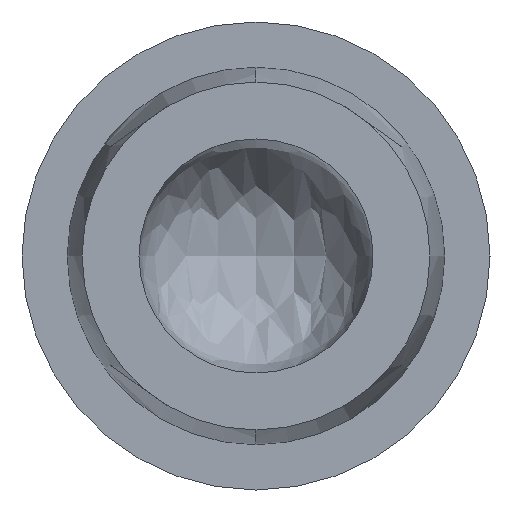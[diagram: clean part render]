
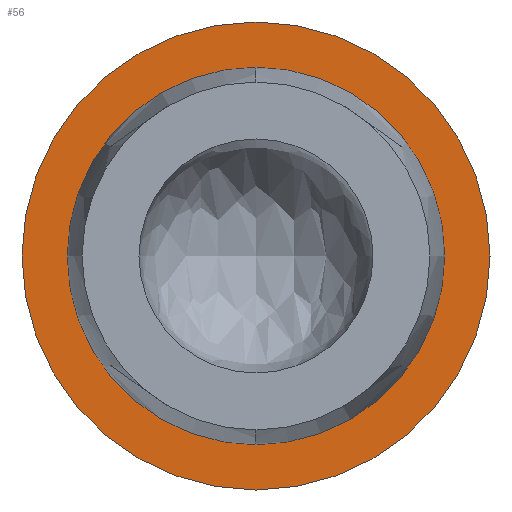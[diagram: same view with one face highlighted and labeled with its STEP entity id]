
A CAD part, left-side view. The second image highlights one B-rep face of the part: STEP entity #56.
In plain terms, the highlighted planar face has unit normal (-1, 0, 0).
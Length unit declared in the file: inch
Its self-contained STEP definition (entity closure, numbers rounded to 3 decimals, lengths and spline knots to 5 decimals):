
#5 = ORIENTED_EDGE ( 'NONE', *, *, #102, .T. ) ;
#25 = AXIS2_PLACEMENT_3D ( 'NONE', #187, #445, #225 ) ;
#35 = DIRECTION ( 'NONE',  ( -1., 0., 0. ) ) ;
#54 = ORIENTED_EDGE ( 'NONE', *, *, #76, .F. ) ;
#56 = ADVANCED_FACE ( 'NONE', ( #128, #423 ), #265, .T. ) ;
#66 = ORIENTED_EDGE ( 'NONE', *, *, #304, .T. ) ;
#68 = AXIS2_PLACEMENT_3D ( 'NONE', #306, #80, #341 ) ;
#76 = EDGE_CURVE ( 'NONE', #361, #86, #220, .T. ) ;
#80 = DIRECTION ( 'NONE',  ( -1., 0., 0. ) ) ;
#86 = VERTEX_POINT ( 'NONE', #337 ) ;
#102 = EDGE_CURVE ( 'NONE', #295, #437, #330, .T. ) ;
#105 = DIRECTION ( 'NONE',  ( -1., 0., 0. ) ) ;
#128 = FACE_OUTER_BOUND ( 'NONE', #215, .T. ) ;
#129 = CARTESIAN_POINT ( 'NONE',  ( -1., 0., 0.375 ) ) ;
#153 = AXIS2_PLACEMENT_3D ( 'NONE', #427, #212, #464 ) ;
#174 = CARTESIAN_POINT ( 'NONE',  ( -1., 0., -0.375 ) ) ;
#187 = CARTESIAN_POINT ( 'NONE',  ( -1., 0., 0. ) ) ;
#189 = EDGE_LOOP ( 'NONE', ( #54, #334 ) ) ;
#212 = DIRECTION ( 'NONE',  ( -1., 0., 0. ) ) ;
#215 = EDGE_LOOP ( 'NONE', ( #5, #66 ) ) ;
#220 = CIRCLE ( 'NONE', #25, 0.3025 ) ;
#225 = DIRECTION ( 'NONE',  ( 0., 0., 1. ) ) ;
#265 = PLANE ( 'NONE',  #472 ) ;
#295 = VERTEX_POINT ( 'NONE', #129 ) ;
#298 = CARTESIAN_POINT ( 'NONE',  ( -1., 0., -0.3025 ) ) ;
#300 = DIRECTION ( 'NONE',  ( 0., 0., 1. ) ) ;
#304 = EDGE_CURVE ( 'NONE', #437, #295, #441, .T. ) ;
#306 = CARTESIAN_POINT ( 'NONE',  ( -1., 0., 0. ) ) ;
#314 = CIRCLE ( 'NONE', #383, 0.3025 ) ;
#328 = CARTESIAN_POINT ( 'NONE',  ( -1., 0., 0. ) ) ;
#330 = CIRCLE ( 'NONE', #68, 0.375 ) ;
#334 = ORIENTED_EDGE ( 'NONE', *, *, #432, .F. ) ;
#337 = CARTESIAN_POINT ( 'NONE',  ( -1., 0., -0.3025 ) ) ;
#341 = DIRECTION ( 'NONE',  ( 0., 0., 1. ) ) ;
#361 = VERTEX_POINT ( 'NONE', #398 ) ;
#364 = DIRECTION ( 'NONE',  ( 0., 0., 1. ) ) ;
#383 = AXIS2_PLACEMENT_3D ( 'NONE', #328, #105, #364 ) ;
#398 = CARTESIAN_POINT ( 'NONE',  ( -1., 0., 0.3025 ) ) ;
#423 = FACE_BOUND ( 'NONE', #189, .T. ) ;
#427 = CARTESIAN_POINT ( 'NONE',  ( -1., 0., 0. ) ) ;
#432 = EDGE_CURVE ( 'NONE', #86, #361, #314, .T. ) ;
#437 = VERTEX_POINT ( 'NONE', #174 ) ;
#441 = CIRCLE ( 'NONE', #153, 0.375 ) ;
#445 = DIRECTION ( 'NONE',  ( -1., 0., 0. ) ) ;
#464 = DIRECTION ( 'NONE',  ( 0., 0., 1. ) ) ;
#472 = AXIS2_PLACEMENT_3D ( 'NONE', #298, #35, #300 ) ;
